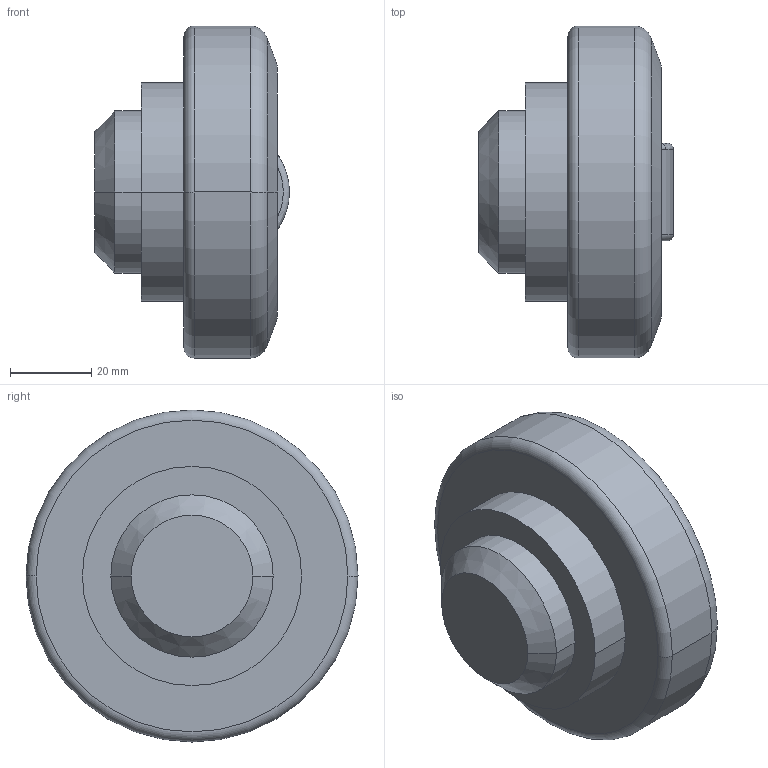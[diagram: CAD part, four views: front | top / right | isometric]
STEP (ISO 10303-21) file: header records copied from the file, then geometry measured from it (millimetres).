
FILE_DESCRIPTION (( 'STEP AP214' ), '1' );
FILE_NAME ('4.0056 PR.STEP', '2013-12-05T08:26:15', ( 'usuario' ), ( 'Hewlett-Packard Company' ), 'SwSTEP 2.0', 'SolidWorks 2017', '' );
FILE_SCHEMA (( 'AUTOMOTIVE_DESIGN' ));
Length unit declared in the file: millimetre
Products named in the file (1): 4.0056 PR
Bounding box: 48 x 81.8 x 81.8 mm (x, y, z)
Volume: 153957 mm3; surface area: 18070 mm2
Topology: 1 solids, 1 shells, 23 faces, 46 edges, 28 vertices
Faces by surface type: cylinder 7, torus 6, plane 6, cone 4
Entity records: 682 total; most frequent: CARTESIAN_POINT 150, DIRECTION 118, ORIENTED_EDGE 92, AXIS2_PLACEMENT_3D 52, EDGE_CURVE 46, CIRCLE 28, VERTEX_POINT 28, EDGE_LOOP 26
